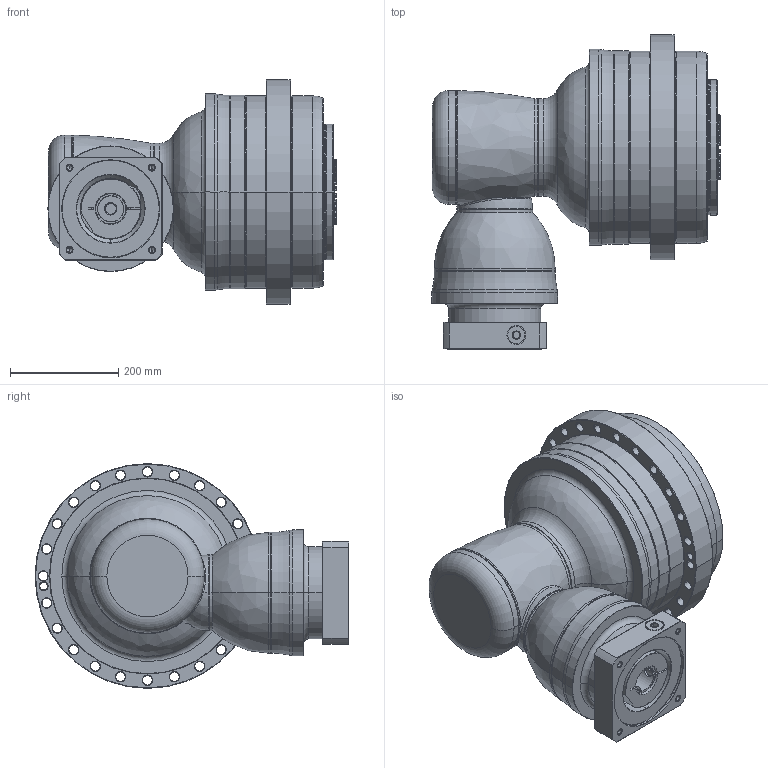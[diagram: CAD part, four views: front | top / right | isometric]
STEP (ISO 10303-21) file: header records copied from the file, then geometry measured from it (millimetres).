
FILE_DESCRIPTION((''),'2;1');
FILE_NAME('APCK355_4ST_48-P0409B10201_ASM','2018-05-17T',('d01226'),(''),'PRO/ENGINEER BY PARAMETRIC TECHNOLOGY CORPORATION, 2008410','PRO/ENGINEER BY PARAMETRIC TECHNOLOGY CORPORATION, 2008410','');
FILE_SCHEMA(('CONFIG_CONTROL_DESIGN'));
Length unit declared in the file: millimetre
Products named in the file (13): P1008600002; P1315600001; P1007601001; P1317610601; P0409B10201; P0503B00016; P0912556001; 21711426021; P1821110001; P0276101003; P03571G0103; P1222100001; APCK355_4ST_48-P0409B10201_ASM
Assembly tree (12 placements, depth 2):
  APCK355_4ST_48-P0409B10201_ASM
    P1008600002
    P1315600001
    P1007601001
    P1317610601
    P0409B10201
    P0503B00016
    P0912556001
    21711426021
    P1821110001
    P0276101003
    P03571G0103
    P1222100001
Bounding box: 532.1 x 579.5 x 415 mm (x, y, z)
Volume: 45153780.9 mm3; surface area: 2119135.4 mm2
Topology: 13 solids, 25 shells, 822 faces, 1979 edges, 1214 vertices
Faces by surface type: cone 256, cylinder 230, plane 155, torus 148, bspline 31, sphere 2
Entity records: 32307 total; most frequent: CARTESIAN_POINT 12693, DIRECTION 4371, ORIENTED_EDGE 3880, EDGE_CURVE 1965, AXIS2_PLACEMENT_3D 1938, VERTEX_POINT 1214, CIRCLE 1110, EDGE_LOOP 935
